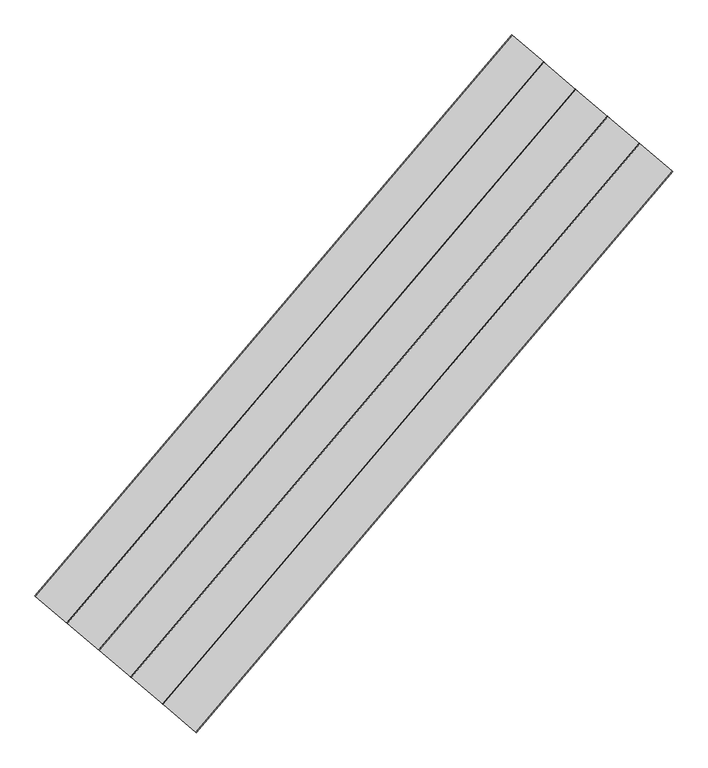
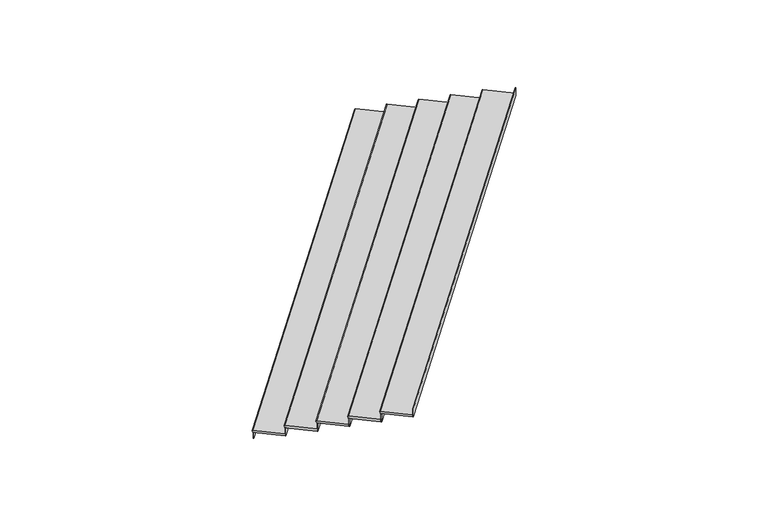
"""IFC4 building model written with IfcOpenShell, lengths in millimetres: stair flight geometry, Wood Steps with 50 mm Tread 20 mm Nosing 13 mm Riser."""

from ifc_helpers import new_model, si_unit, point, frame, frame_2d, origin, origin_with_axes, place, context, project, spatial, polyline, circle_curve, trimmed, segment, composite_curve, outline, extrude, source, transform, mapped, element, save


def stair_flight_a42badfd(model_context):
    return source(origin(), model_context, "Body", "SweptSolid", [
        extrude(outline(composite_curve([segment(polyline([(0.0, -598.410772), (0.0, 0.0)]), True, "CONTINUOUS"), segment(trimmed(circle_curve(frame_2d((10.0, 0.0)), 10.0), [point((0.0, 0.0))], [point((20.0, 0.0))], False, "CARTESIAN"), True, "CONTINUOUS"), segment(polyline([(20.0, 0.0), (50.0, 0.0), (50.0, -598.410772), (0.0, -598.410772)]), True, "CONTINUOUS")], self_intersect=False)), frame((843121.4599658, 56084.3225882, 179.2941176), z_axis=(0.6473560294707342, 0.762187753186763, 0.0), x_axis=(0.0, 0.0, -1.0)), (0.0, 0.0, 1.0), 10348.9095119),
        extrude(outline(polyline([(843138.6091903, 56069.7570776), (843129.0818434, 56077.8490279), (849828.5108143, 63965.6611168), (849838.0381612, 63957.5691664), (843138.6091903, 56069.7570776)])), origin_with_axes(), (0.0, 0.0, 1.0), 129.2941176),
        extrude(outline(polyline([(843587.0886745, 55688.8458165), (843577.5613276, 55696.9377669), (850276.9902986, 63584.7498557), (850286.5176455, 63576.6579053), (843587.0886745, 55688.8458165)])), frame((0.0, 0.0, 129.2941176), z_axis=(0.0, 0.0, 1.0), x_axis=(1.0, 0.0, 0.0)), (0.0, 0.0, 1.0), 179.2941176),
        extrude(outline(composite_curve([segment(polyline([(0.0, -598.410772), (0.0, 0.0)]), True, "CONTINUOUS"), segment(trimmed(circle_curve(frame_2d((10.0, 0.0)), 10.0), [point((0.0, 0.0))], [point((20.0, 0.0))], False, "CARTESIAN"), True, "CONTINUOUS"), segment(polyline([(20.0, 0.0), (50.0, 0.0), (50.0, -598.410772), (0.0, -598.410772)]), True, "CONTINUOUS")], self_intersect=False)), frame((843569.9394501, 55703.4113272, 358.5882353), z_axis=(0.6473560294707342, 0.762187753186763, 0.0), x_axis=(0.0, 0.0, -1.0)), (0.0, 0.0, 1.0), 10348.9095119),
        extrude(outline(polyline([(844035.5681588, 55307.9345555), (844026.0408119, 55316.0265058), (850725.4697828, 63203.8385947), (850734.9971297, 63195.7466443), (844035.5681588, 55307.9345555)])), frame((0.0, 0.0, 308.5882353), z_axis=(0.0, 0.0, 1.0), x_axis=(1.0, 0.0, 0.0)), (0.0, 0.0, 1.0), 179.2941176),
        extrude(outline(composite_curve([segment(polyline([(0.0, -598.410772), (0.0, 0.0)]), True, "CONTINUOUS"), segment(trimmed(circle_curve(frame_2d((10.0, 0.0)), 10.0), [point((0.0, 0.0))], [point((20.0, 0.0))], False, "CARTESIAN"), True, "CONTINUOUS"), segment(polyline([(20.0, 0.0), (50.0, 0.0), (50.0, -598.410772), (0.0, -598.410772)]), True, "CONTINUOUS")], self_intersect=False)), frame((844018.4189343, 55322.5000661, 537.8823529), z_axis=(0.6473560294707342, 0.762187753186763, 0.0), x_axis=(0.0, 0.0, -1.0)), (0.0, 0.0, 1.0), 10348.9095119),
        extrude(outline(polyline([(844484.047643, 54927.0232944), (844474.5202961, 54935.1152448), (851173.9492671, 62822.9273336), (851183.476614, 62814.8353832), (844484.047643, 54927.0232944)])), frame((0.0, 0.0, 487.8823529), z_axis=(0.0, 0.0, 1.0), x_axis=(1.0, 0.0, 0.0)), (0.0, 0.0, 1.0), 179.2941176),
        extrude(outline(composite_curve([segment(polyline([(0.0, -598.410772), (0.0, 0.0)]), True, "CONTINUOUS"), segment(trimmed(circle_curve(frame_2d((10.0, 0.0)), 10.0), [point((0.0, 0.0))], [point((20.0, 0.0))], False, "CARTESIAN"), True, "CONTINUOUS"), segment(polyline([(20.0, 0.0), (50.0, 0.0), (50.0, -598.410772), (0.0, -598.410772)]), True, "CONTINUOUS")], self_intersect=False)), frame((844466.8984186, 54941.5888051, 717.1764706), z_axis=(0.6473560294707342, 0.762187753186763, 0.0), x_axis=(0.0, 0.0, -1.0)), (0.0, 0.0, 1.0), 10348.9095119),
        extrude(outline(polyline([(844932.5271273, 54546.1120334), (844922.9997804, 54554.2039837), (851622.4287513, 62442.0160725), (851631.9560983, 62433.9241222), (844932.5271273, 54546.1120334)])), frame((0.0, 0.0, 667.1764706), z_axis=(0.0, 0.0, 1.0), x_axis=(1.0, 0.0, 0.0)), (0.0, 0.0, 1.0), 179.2941176),
        extrude(outline(polyline([(845381.0066115, 54165.2007723), (845371.4792646, 54173.2927227), (852070.9082356, 62061.1048115), (852080.4355825, 62053.0128611), (845381.0066115, 54165.2007723)])), frame((0.0, 0.0, 846.4705882), z_axis=(0.0, 0.0, 1.0), x_axis=(1.0, 0.0, 0.0)), (0.0, 0.0, 1.0), 179.2941176),
        extrude(outline(composite_curve([segment(polyline([(0.0, -598.410772), (0.0, 0.0)]), True, "CONTINUOUS"), segment(trimmed(circle_curve(frame_2d((10.0, 0.0)), 10.0), [point((0.0, 0.0))], [point((20.0, 0.0))], False, "CARTESIAN"), True, "CONTINUOUS"), segment(polyline([(20.0, 0.0), (50.0, 0.0), (50.0, -598.410772), (0.0, -598.410772)]), True, "CONTINUOUS")], self_intersect=False)), frame((844915.3779028, 54560.677544, 896.4705882), z_axis=(0.6473560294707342, 0.762187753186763, 0.0), x_axis=(0.0, 0.0, -1.0)), (0.0, 0.0, 1.0), 10348.9095119),
    ])


if __name__ == "__main__":
    model = new_model("IFC4")
    model_context = context("Model", 3, world=origin())
    ifc_project = project(units=[si_unit("LENGTHUNIT", "METRE", prefix="MILLI")], contexts=[model_context])
    site = spatial("IfcSite", under=ifc_project)
    building = spatial("IfcBuilding", under=site)
    placement = place(None, origin())
    stair_flight_shape = stair_flight_a42badfd(model_context)
    element("IfcStairFlight", 1, ObjectType="Wood Steps with 50 mm Tread 20 mm Nosing 13 mm Riser", at=placement, inside=building, context=model_context, shape_type="MappedRepresentation", body=[
        mapped(stair_flight_shape, transform((0.0, 0.0, 0.0), x_axis=(1.0, 0.0, 0.0), y_axis=(0.0, 1.0, 0.0), z_axis=(0.0, 0.0, 1.0))),
    ])
    save(model, "model.ifc")
